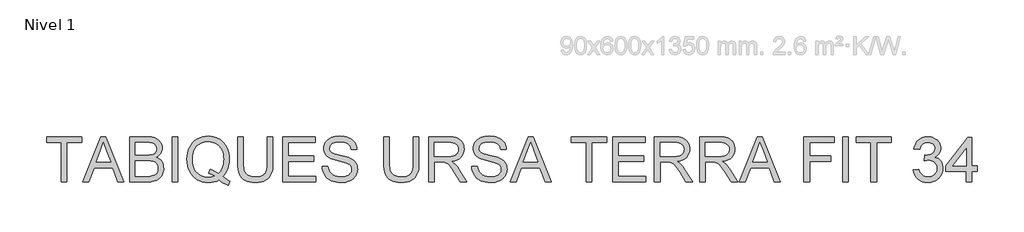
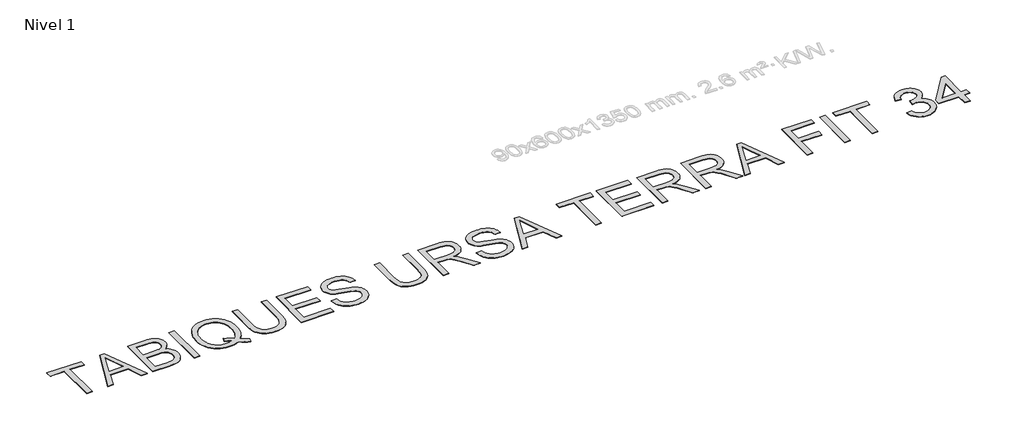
# One storey, part 5 of 10: 1 proxy.
"""IFC4 building model written with IfcOpenShell, lengths in millimetres."""

from ifc_helpers import new_model, si_unit, origin, origin_with_axes, place, context, project, spatial, polyline, outline, extrude, element, save

model = new_model("IFC4")

# Units and contexts
model_context = context("Model", 3, world=origin())
ifc_project = project(units=[si_unit("LENGTHUNIT", "METRE", prefix="MILLI")], contexts=[model_context])

# Site, building, storey
site = spatial("IfcSite", under=ifc_project)
building = spatial("IfcBuilding", under=site)
storey = spatial("IfcBuildingStorey", under=building, Name="Nivel 1", Elevation=0.0)

# Proxy
placement = place(None, origin())
element("IfcBuildingElementProxy", 1, Name="Texto de modelo 2", ObjectType="Texto de modelo 2", at=placement, inside=storey, context=model_context, shape_type="SweptSolid", body=[
    extrude(outline(polyline([(-25242.5462721, -40.3961662), (-25242.5462721, 838.5965476), (-25572.1685397, 838.5965476), (-25572.1685397, 964.1669353), (-24787.3536167, 964.1669353), (-24787.3536167, 838.5965476), (-25116.9758844, 838.5965476), (-25116.9758844, -40.3961662), (-25242.5462721, -40.3961662)])), origin_with_axes(), (0.0, 0.0, 1.0), 10.0),
    extrude(outline(polyline([(-24763.073405, -40.3961662), (-24362.0820303, 964.1669353), (-24255.150997, 964.1669353), (-23854.1596223, -40.3961662), (-23986.8423952, -40.3961662), (-24101.8668323, 273.529803), (-24515.6114496, 273.529803), (-24630.3906321, -40.3961662), (-24763.073405, -40.3961662)]), holes=[polyline([(-24469.5035729, 399.1001907), (-24147.7294544, 399.1001907), (-24238.2284252, 646.0716368), (-24308.6165136, 838.5965476), (-24371.1564528, 667.6540472), (-24469.5035729, 399.1001907)])]), origin_with_axes(), (0.0, 0.0, 1.0), 10.0),
    extrude(outline(polyline([(-23720.0053213, -40.3961662), (-23720.0053213, 964.1669353), (-23336.6722824, 964.1669353), (-23281.0684516, 962.3198611), (-23231.2434339, 956.7786386), (-23187.1972292, 947.5432676), (-23148.9298375, 934.6137484), (-23115.4679044, 917.8521249), (-23085.8380753, 897.1204417), (-23060.0403504, 872.4186985), (-23038.0747296, 843.7468955), (-23020.531357, 812.7221806), (-23008.0003765, 780.9617017), (-23000.4817882, 748.4654588), (-22997.9755921, 715.2334519), (-23000.0832494, 684.5382979), (-23006.4062212, 654.7475205), (-23016.9445075, 625.8611197), (-23031.6981084, 597.8790954), (-23050.713009, 571.6751675), (-23074.0351946, 548.1230556), (-23101.6646653, 527.2227597), (-23133.601421, 508.9742799), (-23095.7019113, 492.818129), (-23062.4469118, 471.8181984), (-23033.8364225, 445.9744883), (-23009.8704433, 415.2869985), (-22990.9321848, 380.6907625), (-22977.4048573, 343.1208138), (-22969.2884607, 302.5771522), (-22966.5829952, 259.0597779), (-22968.4300694, 223.398217), (-22973.971292, 189.0089146), (-22983.2066629, 155.8918709), (-22996.1361822, 124.0470856), (-23011.7941596, 94.6318544), (-23029.2149049, 68.8034727), (-23048.3984181, 46.5619404), (-23069.3446992, 27.9072576), (-23092.5442575, 12.0730034), (-23118.4876024, -1.707243), (-23178.6056518, -23.1057124), (-23251.6608847, -36.0735528), (-23339.6153383, -40.3961662), (-23720.0053213, -40.3961662)]), holes=[polyline([(-23594.4349337, 556.0631753), (-23365.1218233, 556.0631753), (-23284.9235484, 558.7609766), (-23231.2127771, 566.8543805), (-23206.1278235, 575.0014339), (-23184.3384795, 585.4630781), (-23165.8447451, 598.2393132), (-23150.6466201, 613.3301392), (-23138.79009, 630.6282572), (-23130.3211399, 650.0263682), (-23125.2397699, 671.5244723), (-23123.5459798, 695.1225695), (-23125.1248067, 717.7166554), (-23129.8612874, 738.9005269), (-23137.7554219, 758.6741842), (-23148.8072102, 777.0376271), (-23162.8020544, 793.3087412), (-23179.5253568, 806.8054119), (-23198.9771173, 817.5276392), (-23221.1573359, 825.4754231), (-23285.0461757, 835.3162665), (-23382.5349044, 838.5965476), (-23594.4349337, 838.5965476), (-23594.4349337, 556.0631753)]), polyline([(-23594.4349337, 85.1742215), (-23336.917537, 85.1742215), (-23280.5089644, 86.4004948), (-23243.7207649, 90.0793148), (-23200.4639737, 100.9624904), (-23164.8713906, 117.4252097), (-23135.9313403, 141.0003143), (-23112.6321473, 173.2206457), (-23097.273074, 212.6453328), (-23092.1533829, 257.8335046), (-23093.6555677, 284.9954585), (-23098.1621222, 310.3180025), (-23105.6730462, 333.8011366), (-23116.1883399, 355.4448606), (-23130.068221, 374.6283738), (-23147.6729074, 390.7308753), (-23169.0023989, 403.7523651), (-23194.0566956, 413.6928432), (-23223.9394435, 421.0428189), (-23259.7542885, 426.2928015), (-23349.1802702, 430.4927876), (-23594.4349337, 430.4927876), (-23594.4349337, 85.1742215)])]), origin_with_axes(), (0.0, 0.0, 1.0), 10.0),
    extrude(outline(polyline([(-22778.2274137, -40.3961662), (-22778.2274137, 964.1669353), (-22652.657026, 964.1669353), (-22652.657026, -40.3961662), (-22778.2274137, -40.3961662)])), origin_with_axes(), (0.0, 0.0, 1.0), 10.0),
    extrude(outline(polyline([(-21646.8676512, 80.0238736), (-21565.7496713, 18.0357574), (-21527.6278995, -5.7386166), (-21491.1309399, -24.6998677), (-21524.9760835, -116.6703665), (-21576.8014595, -95.3485392), (-21628.5348651, -68.6617662), (-21680.1763002, -36.6100473), (-21731.7257647, 0.8066173), (-21788.3642636, -24.0867311), (-21847.9151616, -41.8676942), (-21910.3784587, -52.536272), (-21975.7541549, -56.0924647), (-22041.5283899, -51.9921133), (-22104.2062849, -39.691059), (-22163.7878397, -19.189302), (-22220.2730543, 9.5131578), (-22272.044781, 45.6422354), (-22317.4858716, 88.4238458), (-22356.5963262, 137.8579889), (-22389.3761448, 193.9446647), (-22415.2888328, 255.235338), (-22433.7978957, 320.2814732), (-22444.9033334, 389.0830705), (-22448.605146, 461.6401299), (-22444.9109976, 534.0439051), (-22433.8285525, 603.1214139), (-22415.3578107, 668.8726563), (-22389.4987721, 731.2976324), (-22356.8185882, 788.4343047), (-22317.8844104, 838.3206361), (-22272.6962387, 880.9566265), (-22221.254073, 916.3422759), (-22165.0600982, 944.132695), (-22105.6164992, 963.9829943), (-22042.9232758, 975.8931739), (-21976.9804282, 979.8632338), (-21910.4780934, 975.8012034), (-21847.3326817, 963.6151123), (-21787.5441933, 943.3049605), (-21731.1126281, 914.8707479), (-21679.616813, 879.1248807), (-21634.6355749, 836.879765), (-21596.1689137, 788.1354006), (-21564.2168296, 732.8917877), (-21539.1088834, 672.5284836), (-21521.1746362, 608.425046), (-21510.4140878, 540.5814747), (-21506.8272384, 468.9977698), (-21509.0038735, 409.4775287), (-21515.5337789, 353.0536276), (-21526.4169546, 299.7260668), (-21541.6534006, 249.494846), (-21561.2891021, 202.3906222), (-21585.3700443, 158.4440522), (-21613.8962274, 117.655136), (-21646.8676512, 80.0238736)]), holes=[polyline([(-21941.1732473, 247.0422994), (-21885.8376639, 229.03141), (-21835.5911147, 207.1271029), (-21790.4335998, 181.329378), (-21750.3651192, 151.6382353), (-21722.716488, 179.1374144), (-21698.7543409, 209.8862179), (-21678.4786781, 243.8846456), (-21661.8894993, 281.1326976), (-21648.9868048, 321.6303739), (-21639.7705944, 365.3776745), (-21634.2408681, 412.3745994), (-21632.3976261, 462.6211485), (-21635.0034569, 519.7424925), (-21642.8209492, 573.1390313), (-21655.8501032, 622.8107648), (-21674.0909188, 668.7576932), (-21697.3517908, 710.3743439), (-21725.441114, 747.0552445), (-21758.3588884, 778.800395), (-21796.1051139, 805.6097954), (-21837.4841742, 826.9086301), (-21881.3004526, 842.1220834), (-21927.5539493, 851.2501554), (-21976.2446642, 854.2928461), (-22012.8489227, 852.7542563), (-22047.8590259, 848.1384869), (-22081.2749738, 840.4455378), (-22113.0967664, 829.6754092), (-22143.3244037, 815.828101), (-22171.9578856, 798.9036132), (-22198.9972123, 778.9019457), (-22224.4423836, 755.8230987), (-22247.5499714, 729.6900647), (-22267.5765476, 700.5258363), (-22284.522112, 668.3304136), (-22298.3866647, 633.1037965), (-22309.1702056, 594.845985), (-22316.8727349, 553.5569792), (-22321.4942525, 509.2367791), (-22323.0347583, 461.8853845), (-22321.5114969, 415.8675623), (-22316.9417128, 372.6050228), (-22309.3254059, 332.0977663), (-22298.6625761, 294.3457926), (-22284.9532237, 259.3491017), (-22268.1973484, 227.1076938), (-22248.3949504, 197.6215686), (-22225.5460296, 170.8907264), (-22200.3288685, 147.1221006), (-22173.4217494, 126.5226249), (-22144.8246724, 109.0922993), (-22114.5376376, 94.8311239), (-22082.5606448, 83.7390985), (-22048.893694, 75.8162232), (-22013.5367854, 71.0624981), (-21976.4899189, 69.477923), (-21941.0966053, 71.0874068), (-21906.7762808, 75.9158579), (-21873.5289455, 83.9632766), (-21841.3545993, 95.2296627), (-21905.6726348, 128.6456106), (-21973.5468629, 150.9024713), (-21941.1732473, 247.0422994)])]), origin_with_axes(), (0.0, 0.0, 1.0), 10.0),
    extrude(outline(polyline([(-20659.2271215, 964.1669353), (-20533.6567338, 964.1669353), (-20533.6567338, 384.6301656), (-20535.7873837, 312.8701839), (-20542.1793333, 248.9123662), (-20552.8325828, 192.7567125), (-20567.747132, 144.4032227), (-20588.210568, 102.0201512), (-20615.5104777, 63.7757521), (-20649.6468612, 29.6700255), (-20690.6197184, -0.2970287), (-20738.4750346, -24.7075319), (-20793.2587951, -42.1436057), (-20854.9709997, -52.6052499), (-20923.6116487, -56.0924647), (-20990.5585076, -53.0574382), (-21051.1134168, -43.9523588), (-21105.2763764, -28.7772265), (-21153.0473863, -7.5320413), (-21194.4341108, 19.4689643), (-21229.444214, 51.9115578), (-21258.077696, 89.7957391), (-21280.3345567, 133.1215082), (-21297.019538, 183.3757216), (-21308.9373818, 242.0452356), (-21316.0880881, 309.1300503), (-21318.4716568, 384.6301656), (-21318.4716568, 964.1669353), (-21192.9012691, 964.1669353), (-21192.9012691, 389.0447495), (-21191.3530991, 328.3365561), (-21186.7085889, 276.1969475), (-21178.9677386, 232.6259237), (-21168.1305481, 197.6234847), (-21153.5225672, 168.6604418), (-21134.4693456, 143.2076062), (-21110.9708831, 121.2649781), (-21083.0271799, 102.8325573), (-21051.1747305, 88.2399048), (-21015.9500295, 77.8165816), (-20977.3530768, 71.5625877), (-20935.3838725, 69.477923), (-20866.1760722, 73.6012671), (-20807.6675065, 85.9712991), (-20759.8581756, 106.5880193), (-20739.9657231, 119.9888874), (-20722.7480793, 135.4514275), (-20707.8603548, 153.8455273), (-20694.9576603, 176.0410743), (-20675.1073609, 231.8365102), (-20663.1971813, 302.8377353), (-20659.2271215, 389.0447495), (-20659.2271215, 964.1669353)])), origin_with_axes(), (0.0, 0.0, 1.0), 10.0),
    extrude(outline(polyline([(-20313.9085553, -40.3961662), (-20313.9085553, 964.1669353), (-19591.8788261, 964.1669353), (-19591.8788261, 838.5965476), (-20188.3381677, 838.5965476), (-20188.3381677, 540.3668769), (-19623.2714231, 540.3668769), (-19623.2714231, 414.7964892), (-20188.3381677, 414.7964892), (-20188.3381677, 85.1742215), (-19576.1825277, 85.1742215), (-19576.1825277, -40.3961662), (-20313.9085553, -40.3961662)])), origin_with_axes(), (0.0, 0.0, 1.0), 10.0),
    extrude(outline(polyline([(-19434.9158415, 304.9223999), (-19309.3454538, 304.9223999), (-19303.5972977, 268.3717909), (-19294.9367424, 235.2394187), (-19283.3637879, 205.5252834), (-19268.8784344, 179.2293849), (-19250.7449177, 155.822893), (-19228.2274739, 134.7769772), (-19201.326103, 116.0916375), (-19170.040805, 99.766874), (-19135.5212111, 86.5154579), (-19098.9169526, 77.0501608), (-19060.2280294, 71.3709825), (-19019.4544416, 69.477923), (-18949.4955489, 75.2107508), (-18917.7810552, 82.3767855), (-18888.2431967, 92.4092341), (-18861.6100731, 104.9478787), (-18838.6097842, 119.6325017), (-18819.24233, 136.463103), (-18803.5077105, 155.4396826), (-18791.3292836, 175.7421702), (-18782.6304072, 196.5504955), (-18777.4110814, 217.8646586), (-18775.6713062, 239.6846595), (-18780.8829678, 281.7151774), (-18796.5179526, 318.0435244), (-18809.6697339, 334.1613543), (-18828.2784315, 349.0375825), (-18852.3440453, 362.672209), (-18881.8665754, 375.0652337), (-18948.1773051, 394.7775773), (-19064.703927, 423.0125204), (-19184.725428, 454.7423425), (-19228.526378, 470.0324379), (-19261.5207945, 484.9393229), (-19295.0517055, 504.9429064), (-19324.0300768, 527.1844387), (-19348.4559085, 551.6639198), (-19368.3292004, 578.3813497), (-19383.7265947, 607.0608169), (-19394.7247336, 637.4264099), (-19401.3236168, 669.4781287), (-19403.5232446, 703.2159734), (-19400.8024507, 740.6096454), (-19392.6400689, 776.7617156), (-19379.0360993, 811.6721841), (-19359.9905418, 845.3410509), (-19335.7179944, 876.3964226), (-19306.4330547, 903.4664061), (-19272.1357229, 926.5510013), (-19232.8259988, 945.6502082), (-19189.8297907, 960.6184069), (-19144.4730063, 971.3099774), (-19096.7556459, 977.7249197), (-19046.6777093, 979.8632338), (-18992.047233, 977.625285), (-18940.7276947, 970.9114385), (-18892.7190943, 959.7216945), (-18848.0214319, 944.0560529), (-18807.4624419, 924.0524694), (-18771.8698589, 899.8488998), (-18741.2436828, 871.4453441), (-18715.5839136, 838.8418023), (-18695.0898208, 802.9886362), (-18679.9606738, 764.8362076), (-18670.1964725, 724.3845165), (-18665.7972169, 681.633563), (-18791.3676046, 681.633563), (-18799.7675769, 721.7020436), (-18814.421543, 756.5588627), (-18835.3295031, 786.2040201), (-18862.491457, 810.637516), (-18896.4132427, 829.7367229), (-18937.6006977, 843.3790135), (-18986.0538222, 851.5643879), (-19041.772616, 854.2928461), (-19099.2695062, 851.5950448), (-19148.397081, 843.5016409), (-19189.1553403, 830.0126344), (-19221.5442843, 811.1280253), (-19246.2230348, 788.4266405), (-19263.8507138, 763.4873069), (-19274.4273211, 736.3100245), (-19277.9528569, 706.8947933), (-19275.454325, 681.5875778), (-19267.9587294, 658.6409383), (-19255.46607, 638.054875), (-19237.9763468, 619.8293878), (-19210.4465108, 602.5695909), (-19167.097749, 585.1258529), (-19107.9300615, 567.498174), (-19032.9434481, 549.6865541), (-18894.4971906, 516.0253515), (-18845.7834831, 500.804234), (-18810.742723, 486.6561056), (-18772.2454051, 465.2116509), (-18739.1590182, 441.1000518), (-18711.4835622, 414.3213083), (-18689.2190373, 384.8754202), (-18672.1048603, 352.9156719), (-18659.8804482, 318.5953474), (-18652.5458009, 281.9144468), (-18650.1009185, 242.8729701), (-18652.9136829, 203.5939029), (-18661.3519762, 165.4644669), (-18675.4157983, 128.4846622), (-18695.1051492, 92.6544887), (-18720.0751397, 59.3611682), (-18749.9808802, 29.9919222), (-18784.8223708, 4.5467509), (-18824.5996115, -16.9743458), (-18868.1553069, -34.0885228), (-18914.3321615, -46.312935), (-18963.1301753, -53.6475822), (-19014.5493484, -56.0924647), (-19078.7830776, -53.455977), (-19137.5752189, -45.5465141), (-19190.9257724, -32.364076), (-19238.8347381, -13.9086625), (-19281.5933558, 9.850383), (-19319.4928655, 38.9437174), (-19352.5332672, 73.3713408), (-19380.7145609, 113.1332531), (-19403.4159457, 156.9418674), (-19420.0166207, 203.5095966), (-19430.516586, 252.8364408), (-19434.9158415, 304.9223999)])), origin_with_axes(), (0.0, 0.0, 1.0), 10.0),
    extrude(outline(polyline([(-17410.0933401, 964.1669353), (-17284.5229524, 964.1669353), (-17284.5229524, 384.6301656), (-17286.6536023, 312.8701839), (-17293.0455519, 248.9123662), (-17303.6988014, 192.7567125), (-17318.6133506, 144.4032227), (-17339.0767866, 102.0201512), (-17366.3766963, 63.7757521), (-17400.5130798, 29.6700255), (-17441.485937, -0.2970287), (-17489.3412532, -24.7075319), (-17544.1250137, -42.1436057), (-17605.8372183, -52.6052499), (-17674.4778673, -56.0924647), (-17741.4247262, -53.0574382), (-17801.9796354, -43.9523588), (-17856.142595, -28.7772265), (-17903.9136049, -7.5320413), (-17945.3003294, 19.4689643), (-17980.3104326, 51.9115578), (-18008.9439146, 89.7957391), (-18031.2007753, 133.1215082), (-18047.8857566, 183.3757216), (-18059.8036004, 242.0452356), (-18066.9543067, 309.1300503), (-18069.3378754, 384.6301656), (-18069.3378754, 964.1669353), (-17943.7674877, 964.1669353), (-17943.7674877, 389.0447495), (-17942.2193177, 328.3365561), (-17937.5748075, 276.1969475), (-17929.8339572, 232.6259237), (-17918.9967667, 197.6234847), (-17904.3887858, 168.6604418), (-17885.3355642, 143.2076062), (-17861.8371017, 121.2649781), (-17833.8933985, 102.8325573), (-17802.0409491, 88.2399048), (-17766.8162481, 77.8165816), (-17728.2192954, 71.5625877), (-17686.2500911, 69.477923), (-17617.0422908, 73.6012671), (-17558.5337251, 85.9712991), (-17510.7243942, 106.5880193), (-17490.8319417, 119.9888874), (-17473.6142979, 135.4514275), (-17458.7265734, 153.8455273), (-17445.8238789, 176.0410743), (-17425.9735795, 231.8365102), (-17414.0633999, 302.8377353), (-17410.0933401, 389.0447495), (-17410.0933401, 964.1669353)])), origin_with_axes(), (0.0, 0.0, 1.0), 10.0),
    extrude(outline(polyline([(-17064.7747739, -40.3961662), (-17064.7747739, 964.1669353), (-16631.9002929, 964.1669353), (-16569.7665568, 962.4731453), (-16515.557612, 957.3917752), (-16469.2734585, 948.9228251), (-16430.9140962, 937.066295), (-16398.2492408, 920.910144), (-16369.0486074, 899.5423315), (-16343.3121961, 872.9628573), (-16321.040007, 841.1717216), (-16303.0674387, 805.8780427), (-16290.2298899, 768.790939), (-16282.5273607, 729.9104107), (-16279.9598509, 689.2364576), (-16284.2134865, 637.6410077), (-16296.9743932, 590.2762009), (-16318.242571, 547.1420369), (-16348.01802, 508.2385159), (-16386.6839505, 474.8072396), (-16434.623573, 448.0898097), (-16491.8368875, 428.0862262), (-16558.3238939, 414.7964892), (-16516.9371695, 387.7571625), (-16486.9547868, 361.0857179), (-16435.5126212, 300.0786203), (-16385.1741015, 231.8365102), (-16217.6651664, -40.3961662), (-16363.5916911, -40.3961662), (-16494.3124267, 167.8250431), (-16546.6129837, 247.287554), (-16588.7354722, 305.6581639), (-16623.8375459, 345.8492719), (-16655.0768586, 370.7732771), (-16684.6607024, 385.3965864), (-16714.7963692, 394.6856068), (-16787.6370042, 399.1001907), (-16939.2043862, 399.1001907), (-16939.2043862, -40.3961662), (-17064.7747739, -40.3961662)]), holes=[polyline([(-16939.2043862, 524.6705784), (-16658.1425419, 524.6705784), (-16577.4231008, 529.1158192), (-16514.7911911, 542.4515415), (-16489.6066029, 552.6755953), (-16467.6409821, 565.5667935), (-16448.8943288, 581.1251362), (-16433.3666429, 599.3506234), (-16421.188216, 619.3465427), (-16412.4893397, 640.2161817), (-16407.2700138, 661.9595405), (-16405.5302386, 684.576619), (-16408.8488407, 716.6896515), (-16418.8046472, 745.8289712), (-16435.3976581, 771.9945781), (-16458.6278732, 795.1864722), (-16489.0317873, 814.1783802), (-16527.1458948, 827.7440288), (-16572.9701958, 835.8834179), (-16626.5046903, 838.5965476), (-16939.2043862, 838.5965476), (-16939.2043862, 524.6705784)])]), origin_with_axes(), (0.0, 0.0, 1.0), 10.0),
    extrude(outline(polyline([(-16107.3005678, 304.9223999), (-15981.7301801, 304.9223999), (-15975.982024, 268.3717909), (-15967.3214687, 235.2394187), (-15955.7485142, 205.5252834), (-15941.2631607, 179.2293849), (-15923.129644, 155.822893), (-15900.6122002, 134.7769772), (-15873.7108293, 116.0916375), (-15842.4255313, 99.766874), (-15807.9059374, 86.5154579), (-15771.3016789, 77.0501608), (-15732.6127557, 71.3709825), (-15691.8391679, 69.477923), (-15621.8802752, 75.2107508), (-15590.1657815, 82.3767855), (-15560.627923, 92.4092341), (-15533.9947994, 104.9478787), (-15510.9945105, 119.6325017), (-15491.6270563, 136.463103), (-15475.8924368, 155.4396826), (-15463.7140099, 175.7421702), (-15455.0151335, 196.5504955), (-15449.7958077, 217.8646586), (-15448.0560325, 239.6846595), (-15453.2676941, 281.7151774), (-15468.9026789, 318.0435244), (-15482.0544602, 334.1613543), (-15500.6631578, 349.0375825), (-15524.7287716, 362.672209), (-15554.2513017, 375.0652337), (-15620.5620314, 394.7775773), (-15737.0886533, 423.0125204), (-15857.1101543, 454.7423425), (-15900.9111043, 470.0324379), (-15933.9055208, 484.9393229), (-15967.4364318, 504.9429064), (-15996.4148031, 527.1844387), (-16020.8406347, 551.6639198), (-16040.7139267, 578.3813497), (-16056.111321, 607.0608169), (-16067.1094598, 637.4264099), (-16073.7083431, 669.4781287), (-16075.9079709, 703.2159734), (-16073.187177, 740.6096454), (-16065.0247952, 776.7617156), (-16051.4208256, 811.6721841), (-16032.3752681, 845.3410509), (-16008.1027207, 876.3964226), (-15978.817781, 903.4664061), (-15944.5204492, 926.5510013), (-15905.2107251, 945.6502082), (-15862.214517, 960.6184069), (-15816.8577326, 971.3099774), (-15769.1403722, 977.7249197), (-15719.0624356, 979.8632338), (-15664.4319593, 977.625285), (-15613.112421, 970.9114385), (-15565.1038206, 959.7216945), (-15520.4061582, 944.0560529), (-15479.8471682, 924.0524694), (-15444.2545852, 899.8488998), (-15413.6284091, 871.4453441), (-15387.9686399, 838.8418023), (-15367.4745471, 802.9886362), (-15352.3454001, 764.8362076), (-15342.5811988, 724.3845165), (-15338.1819432, 681.633563), (-15463.7523309, 681.633563), (-15472.1523031, 721.7020436), (-15486.8062693, 756.5588627), (-15507.7142294, 786.2040201), (-15534.8761833, 810.637516), (-15568.797969, 829.7367229), (-15609.985424, 843.3790135), (-15658.4385485, 851.5643879), (-15714.1573423, 854.2928461), (-15771.6542325, 851.5950448), (-15820.7818072, 843.5016409), (-15861.5400666, 830.0126344), (-15893.9290106, 811.1280253), (-15918.6077611, 788.4266405), (-15936.2354401, 763.4873069), (-15946.8120474, 736.3100245), (-15950.3375832, 706.8947933), (-15947.8390513, 681.5875778), (-15940.3434557, 658.6409383), (-15927.8507963, 638.054875), (-15910.3610731, 619.8293878), (-15882.8312371, 602.5695909), (-15839.4824753, 585.1258529), (-15780.3147878, 567.498174), (-15705.3281744, 549.6865541), (-15566.8819169, 516.0253515), (-15518.1682094, 500.804234), (-15483.1274493, 486.6561056), (-15444.6301314, 465.2116509), (-15411.5437444, 441.1000518), (-15383.8682885, 414.3213083), (-15361.6037636, 384.8754202), (-15344.4895866, 352.9156719), (-15332.2651745, 318.5953474), (-15324.9305272, 281.9144468), (-15322.4856448, 242.8729701), (-15325.2984092, 203.5939029), (-15333.7367025, 165.4644669), (-15347.8005246, 128.4846622), (-15367.4898755, 92.6544887), (-15392.4598659, 59.3611682), (-15422.3656065, 29.9919222), (-15457.2070971, 4.5467509), (-15496.9843378, -16.9743458), (-15540.5400332, -34.0885228), (-15586.7168878, -46.312935), (-15635.5149016, -53.6475822), (-15686.9340747, -56.0924647), (-15751.1678039, -53.455977), (-15809.9599452, -45.5465141), (-15863.3104987, -32.364076), (-15911.2194644, -13.9086625), (-15953.9780821, 9.850383), (-15991.8775918, 38.9437174), (-16024.9179935, 73.3713408), (-16053.0992872, 113.1332531), (-16075.800672, 156.9418674), (-16092.401347, 203.5095966), (-16102.9013123, 252.8364408), (-16107.3005678, 304.9223999)])), origin_with_axes(), (0.0, 0.0, 1.0), 10.0),
    extrude(outline(polyline([(-15251.1165377, -40.3961662), (-14850.125163, 964.1669353), (-14743.1941297, 964.1669353), (-14342.202755, -40.3961662), (-14474.8855279, -40.3961662), (-14589.909965, 273.529803), (-15003.6545823, 273.529803), (-15118.4337648, -40.3961662), (-15251.1165377, -40.3961662)]), holes=[polyline([(-14957.5467056, 399.1001907), (-14635.7725871, 399.1001907), (-14726.2715579, 646.0716368), (-14796.6596463, 838.5965476), (-14859.1995855, 667.6540472), (-14957.5467056, 399.1001907)])]), origin_with_axes(), (0.0, 0.0, 1.0), 10.0),
    extrude(outline(polyline([(-13564.5002172, -40.3961662), (-13564.5002172, 838.5965476), (-13894.1224848, 838.5965476), (-13894.1224848, 964.1669353), (-13109.3075618, 964.1669353), (-13109.3075618, 838.5965476), (-13438.9298295, 838.5965476), (-13438.9298295, -40.3961662), (-13564.5002172, -40.3961662)])), origin_with_axes(), (0.0, 0.0, 1.0), 10.0),
    extrude(outline(polyline([(-12968.0408756, -40.3961662), (-12968.0408756, 964.1669353), (-12246.0111464, 964.1669353), (-12246.0111464, 838.5965476), (-12842.470488, 838.5965476), (-12842.470488, 540.3668769), (-12277.4037434, 540.3668769), (-12277.4037434, 414.7964892), (-12842.470488, 414.7964892), (-12842.470488, 85.1742215), (-12230.314848, 85.1742215), (-12230.314848, -40.3961662), (-12968.0408756, -40.3961662)])), origin_with_axes(), (0.0, 0.0, 1.0), 10.0),
    extrude(outline(polyline([(-12041.9592665, -40.3961662), (-12041.9592665, 964.1669353), (-11609.0847855, 964.1669353), (-11546.9510493, 962.4731453), (-11492.7421045, 957.3917752), (-11446.457951, 948.9228251), (-11408.0985888, 937.066295), (-11375.4337333, 920.910144), (-11346.2330999, 899.5423315), (-11320.4966887, 872.9628573), (-11298.2244995, 841.1717216), (-11280.2519312, 805.8780427), (-11267.4143824, 768.790939), (-11259.7118532, 729.9104107), (-11257.1443434, 689.2364576), (-11261.397979, 637.6410077), (-11274.1588857, 590.2762009), (-11295.4270635, 547.1420369), (-11325.2025125, 508.2385159), (-11363.8684431, 474.8072396), (-11411.8080656, 448.0898097), (-11469.02138, 428.0862262), (-11535.5083864, 414.7964892), (-11494.121662, 387.7571625), (-11464.1392794, 361.0857179), (-11412.6971137, 300.0786203), (-11362.358594, 231.8365102), (-11194.8496589, -40.3961662), (-11340.7761836, -40.3961662), (-11471.4969193, 167.8250431), (-11523.7974762, 247.287554), (-11565.9199647, 305.6581639), (-11601.0220384, 345.8492719), (-11632.2613512, 370.7732771), (-11661.8451949, 385.3965864), (-11691.9808617, 394.6856068), (-11764.8214968, 399.1001907), (-11916.3888788, 399.1001907), (-11916.3888788, -40.3961662), (-12041.9592665, -40.3961662)]), holes=[polyline([(-11916.3888788, 524.6705784), (-11635.3270345, 524.6705784), (-11554.6075933, 529.1158192), (-11491.9756837, 542.4515415), (-11466.7910954, 552.6755953), (-11444.8254746, 565.5667935), (-11426.0788213, 581.1251362), (-11410.5511354, 599.3506234), (-11398.3727085, 619.3465427), (-11389.6738322, 640.2161817), (-11384.4545064, 661.9595405), (-11382.7147311, 684.576619), (-11386.0333333, 716.6896515), (-11395.9891398, 745.8289712), (-11412.5821506, 771.9945781), (-11435.8123657, 795.1864722), (-11466.2162798, 814.1783802), (-11504.3303873, 827.7440288), (-11550.1546884, 835.8834179), (-11603.6891829, 838.5965476), (-11916.3888788, 838.5965476), (-11916.3888788, 524.6705784)])]), origin_with_axes(), (0.0, 0.0, 1.0), 10.0),
    extrude(outline(polyline([(-11037.396165, -40.3961662), (-11037.396165, 964.1669353), (-10604.521684, 964.1669353), (-10542.3879478, 962.4731453), (-10488.179003, 957.3917752), (-10441.8948495, 948.9228251), (-10403.5354873, 937.066295), (-10370.8706318, 920.910144), (-10341.6699984, 899.5423315), (-10315.9335872, 872.9628573), (-10293.661398, 841.1717216), (-10275.6888297, 805.8780427), (-10262.8512809, 768.790939), (-10255.1487517, 729.9104107), (-10252.5812419, 689.2364576), (-10256.8348775, 637.6410077), (-10269.5957842, 590.2762009), (-10290.863962, 547.1420369), (-10320.639411, 508.2385159), (-10359.3053416, 474.8072396), (-10407.2449641, 448.0898097), (-10464.4582785, 428.0862262), (-10530.9452849, 414.7964892), (-10489.5585605, 387.7571625), (-10459.5761779, 361.0857179), (-10408.1340122, 300.0786203), (-10357.7954925, 231.8365102), (-10190.2865574, -40.3961662), (-10336.2130822, -40.3961662), (-10466.9338178, 167.8250431), (-10519.2343748, 247.287554), (-10561.3568632, 305.6581639), (-10596.4589369, 345.8492719), (-10627.6982497, 370.7732771), (-10657.2820934, 385.3965864), (-10687.4177602, 394.6856068), (-10760.2583953, 399.1001907), (-10911.8257773, 399.1001907), (-10911.8257773, -40.3961662), (-11037.396165, -40.3961662)]), holes=[polyline([(-10911.8257773, 524.6705784), (-10630.763933, 524.6705784), (-10550.0444918, 529.1158192), (-10487.4125822, 542.4515415), (-10462.2279939, 552.6755953), (-10440.2623731, 565.5667935), (-10421.5157198, 581.1251362), (-10405.9880339, 599.3506234), (-10393.809607, 619.3465427), (-10385.1107307, 640.2161817), (-10379.8914049, 661.9595405), (-10378.1516296, 684.576619), (-10381.4702318, 716.6896515), (-10391.4260383, 745.8289712), (-10408.0190491, 771.9945781), (-10431.2492642, 795.1864722), (-10461.6531783, 814.1783802), (-10499.7672858, 827.7440288), (-10545.5915869, 835.8834179), (-10599.1260814, 838.5965476), (-10911.8257773, 838.5965476), (-10911.8257773, 524.6705784)])]), origin_with_axes(), (0.0, 0.0, 1.0), 10.0),
    extrude(outline(polyline([(-10149.8195379, -40.3961662), (-9748.8281632, 964.1669353), (-9641.8971299, 964.1669353), (-9240.9057552, -40.3961662), (-9373.5885281, -40.3961662), (-9488.6129653, 273.529803), (-9902.3575825, 273.529803), (-10017.136765, -40.3961662), (-10149.8195379, -40.3961662)]), holes=[polyline([(-9856.2497058, 399.1001907), (-9534.4755873, 399.1001907), (-9624.9745581, 646.0716368), (-9695.3626466, 838.5965476), (-9757.9025857, 667.6540472), (-9856.2497058, 399.1001907)])]), origin_with_axes(), (0.0, 0.0, 1.0), 10.0),
    extrude(outline(polyline([(-8714.3439927, -40.3961662), (-8714.3439927, 964.1669353), (-8039.4031589, 964.1669353), (-8039.4031589, 838.5965476), (-8588.7736051, 838.5965476), (-8588.7736051, 540.3668769), (-8117.8846512, 540.3668769), (-8117.8846512, 414.7964892), (-8588.7736051, 414.7964892), (-8588.7736051, -40.3961662), (-8714.3439927, -40.3961662)])), origin_with_axes(), (0.0, 0.0, 1.0), 10.0),
    extrude(outline(polyline([(-7851.0475774, -40.3961662), (-7851.0475774, 964.1669353), (-7725.4771897, 964.1669353), (-7725.4771897, -40.3961662), (-7851.0475774, -40.3961662)])), origin_with_axes(), (0.0, 0.0, 1.0), 10.0),
    extrude(outline(polyline([(-7223.195639, -40.3961662), (-7223.195639, 838.5965476), (-7552.8179066, 838.5965476), (-7552.8179066, 964.1669353), (-6768.0029836, 964.1669353), (-6768.0029836, 838.5965476), (-7097.6252513, 838.5965476), (-7097.6252513, -40.3961662), (-7223.195639, -40.3961662)])), origin_with_axes(), (0.0, 0.0, 1.0), 10.0),
    extrude(outline(polyline([(-6281.4177313, 226.4409076), (-6155.8473436, 242.1372061), (-6143.4236621, 199.4782231), (-6127.7350278, 163.2265181), (-6108.7814409, 133.3820913), (-6086.5629012, 109.9449425), (-6060.5735711, 92.2406215), (-6030.3076128, 79.5946779), (-5995.7650263, 72.0071117), (-5956.9458116, 69.477923), (-5911.4510715, 72.9574736), (-5870.8614247, 83.3961252), (-5835.1768712, 100.7938779), (-5804.3974109, 125.1507316), (-5779.6113615, 154.6426049), (-5761.9070405, 187.4454161), (-5751.2844478, 223.5591653), (-5747.7435836, 262.9838525), (-5751.253791, 300.5308086), (-5761.7844131, 334.6901847), (-5779.33545, 365.4619808), (-5803.9069016, 392.8461968), (-5833.8892842, 415.3253195), (-5867.6731141, 431.3818358), (-5905.2583912, 441.0157455), (-5946.6451157, 444.2270488), (-5986.3150575, 440.7934835), (-6034.6915399, 430.4927876), (-6020.7120241, 556.0631753), (-6000.6011417, 554.5916473), (-5961.9888606, 556.8449246), (-5925.3692736, 563.6047562), (-5890.7423809, 574.8711423), (-5858.1081822, 590.6440829), (-5830.4250621, 611.0921904), (-5810.6514048, 636.3840776), (-5798.7872105, 666.5197444), (-5794.832479, 701.4991907), (-5797.6988929, 729.8950822), (-5806.2981345, 755.7311282), (-5820.6302039, 779.0073286), (-5840.6951011, 799.7236835), (-5865.2818811, 816.7305615), (-5893.1795991, 828.8783316), (-5924.388255, 836.1669936), (-5958.9078489, 838.5965476), (-5993.3354723, 836.144001), (-6024.758726, 828.7863611), (-6053.1776101, 816.5236279), (-6078.5921246, 799.3558015), (-6100.3738044, 777.2828817), (-6117.8941845, 750.3048688), (-6131.1532647, 718.4217625), (-6140.1510452, 681.633563), (-6265.7214329, 697.3298615), (-6250.8375405, 757.2792983), (-6228.7492923, 810.085693), (-6199.4566885, 855.7490456), (-6162.9597289, 894.2693562), (-6120.4080448, 924.8495471), (-6072.9512674, 946.6925405), (-6020.5893967, 959.7983366), (-5963.3224328, 964.1669353), (-5923.0470186, 962.0132928), (-5884.381088, 955.5523652), (-5847.3246412, 944.7841527), (-5811.8776781, 929.7086551), (-5779.2741363, 910.9006881), (-5750.7479533, 888.9350673), (-5726.299129, 863.8117927), (-5705.9276635, 835.5308643), (-5689.8864757, 805.2189208), (-5678.4284844, 774.0026006), (-5671.5536896, 741.8819039), (-5669.2620913, 708.8568306), (-5671.4387265, 677.8014589), (-5677.9686319, 648.1563014), (-5688.8518076, 619.9213583), (-5704.0882535, 593.0966295), (-5723.5859993, 568.3105801), (-5747.2530743, 546.1916751), (-5775.0894786, 526.7399146), (-5807.0952122, 509.9552986), (-5765.2486352, 496.8648309), (-5728.4910926, 478.1948197), (-5696.8225841, 453.9452648), (-5670.24311, 424.1161664), (-5649.2125226, 389.4432883), (-5634.1906745, 350.6623947), (-5625.1775656, 307.7734854), (-5622.173196, 260.7765605), (-5628.1819352, 197.0716617), (-5635.6928593, 167.1046075), (-5646.208153, 138.3944835), (-5659.7278163, 110.9412896), (-5676.2518492, 84.7450258), (-5718.313024, 36.1232888), (-5743.1412266, 14.5102216), (-5769.5559203, -4.2211033), (-5797.5571051, -20.070686), (-5827.1447809, -33.0385263), (-5858.3189479, -43.1246243), (-5891.079606, -50.3289801), (-5961.3603955, -56.0924647), (-6024.8813533, -51.172043), (-6082.7614539, -36.4107779), (-6135.0006972, -11.8086695), (-6181.5990833, 22.6342823), (-6220.6712169, 64.8947265), (-6250.3317027, 112.9493121), (-6270.5805409, 166.7980392), (-6281.4177313, 226.4409076)])), origin_with_axes(), (0.0, 0.0, 1.0), 10.0),
    extrude(outline(polyline([(-5104.1953467, -40.3961662), (-5104.1953467, 195.0483107), (-5559.3880021, 195.0483107), (-5559.3880021, 320.6186984), (-5072.8027498, 948.4706368), (-4978.6249591, 948.4706368), (-4978.6249591, 320.6186984), (-4853.0545714, 320.6186984), (-4853.0545714, 195.0483107), (-4978.6249591, 195.0483107), (-4978.6249591, -40.3961662), (-5104.1953467, -40.3961662)]), holes=[polyline([(-5104.1953467, 320.6186984), (-5104.1953467, 708.611576), (-5404.8775641, 320.6186984), (-5104.1953467, 320.6186984)])]), origin_with_axes(), (0.0, 0.0, 1.0), 10.0),
])

save(model, "model.ifc")
